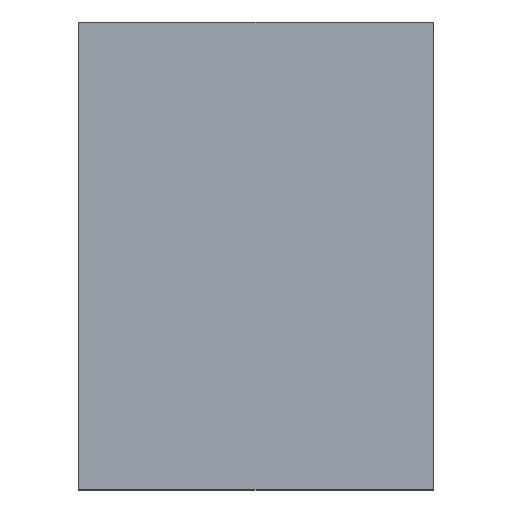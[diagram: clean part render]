
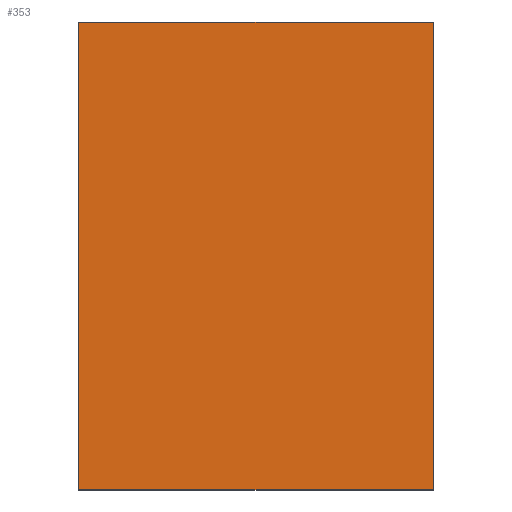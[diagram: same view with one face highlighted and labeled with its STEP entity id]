
A CAD part, top view. The second image highlights one B-rep face of the part: STEP entity #353.
In plain terms, the highlighted planar face has unit normal (0, 0, 1).
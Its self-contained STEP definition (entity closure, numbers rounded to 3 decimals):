
#39 = VERTEX_POINT('',#40);
#40 = CARTESIAN_POINT('',(1.325,2.46,1.08));
#47 = PLANE('',#48);
#48 = AXIS2_PLACEMENT_3D('',#49,#50,#51);
#49 = CARTESIAN_POINT('',(1.325,2.46,0.));
#50 = DIRECTION('',(0.,-1.,0.));
#51 = DIRECTION('',(-1.,0.,0.));
#59 = PLANE('',#60);
#60 = AXIS2_PLACEMENT_3D('',#61,#62,#63);
#61 = CARTESIAN_POINT('',(1.325,-1.04,0.));
#62 = DIRECTION('',(-1.,0.,0.));
#63 = DIRECTION('',(0.,1.,0.));
#71 = EDGE_CURVE('',#39,#72,#74,.T.);
#72 = VERTEX_POINT('',#73);
#73 = CARTESIAN_POINT('',(-1.325,2.46,1.08));
#74 = SURFACE_CURVE('',#75,(#79,#86),.PCURVE_S1.);
#75 = LINE('',#76,#77);
#76 = CARTESIAN_POINT('',(1.325,2.46,1.08));
#77 = VECTOR('',#78,1.);
#78 = DIRECTION('',(-1.,0.,0.));
#79 = PCURVE('',#47,#80);
#80 = DEFINITIONAL_REPRESENTATION('',(#81),#85);
#81 = LINE('',#82,#83);
#82 = CARTESIAN_POINT('',(0.,-1.08));
#83 = VECTOR('',#84,1.);
#84 = DIRECTION('',(1.,0.));
#85 = ( GEOMETRIC_REPRESENTATION_CONTEXT(2) 
PARAMETRIC_REPRESENTATION_CONTEXT() REPRESENTATION_CONTEXT('2D SPACE',''
  ) );
#86 = PCURVE('',#87,#92);
#87 = PLANE('',#88);
#88 = AXIS2_PLACEMENT_3D('',#89,#90,#91);
#89 = CARTESIAN_POINT('',(0.,0.71,1.08));
#90 = DIRECTION('',(0.,0.,1.));
#91 = DIRECTION('',(1.,0.,0.));
#92 = DEFINITIONAL_REPRESENTATION('',(#93),#97);
#93 = LINE('',#94,#95);
#94 = CARTESIAN_POINT('',(1.325,1.75));
#95 = VECTOR('',#96,1.);
#96 = DIRECTION('',(-1.,0.));
#97 = ( GEOMETRIC_REPRESENTATION_CONTEXT(2) 
PARAMETRIC_REPRESENTATION_CONTEXT() REPRESENTATION_CONTEXT('2D SPACE',''
  ) );
#115 = PLANE('',#116);
#116 = AXIS2_PLACEMENT_3D('',#117,#118,#119);
#117 = CARTESIAN_POINT('',(-1.325,2.46,0.));
#118 = DIRECTION('',(1.,0.,-0.));
#119 = DIRECTION('',(0.,-1.,0.));
#157 = EDGE_CURVE('',#72,#158,#160,.T.);
#158 = VERTEX_POINT('',#159);
#159 = CARTESIAN_POINT('',(-1.325,-1.04,1.08));
#160 = SURFACE_CURVE('',#161,(#165,#172),.PCURVE_S1.);
#161 = LINE('',#162,#163);
#162 = CARTESIAN_POINT('',(-1.325,2.46,1.08));
#163 = VECTOR('',#164,1.);
#164 = DIRECTION('',(0.,-1.,0.));
#165 = PCURVE('',#115,#166);
#166 = DEFINITIONAL_REPRESENTATION('',(#167),#171);
#167 = LINE('',#168,#169);
#168 = CARTESIAN_POINT('',(0.,-1.08));
#169 = VECTOR('',#170,1.);
#170 = DIRECTION('',(1.,0.));
#171 = ( GEOMETRIC_REPRESENTATION_CONTEXT(2) 
PARAMETRIC_REPRESENTATION_CONTEXT() REPRESENTATION_CONTEXT('2D SPACE',''
  ) );
#172 = PCURVE('',#87,#173);
#173 = DEFINITIONAL_REPRESENTATION('',(#174),#178);
#174 = LINE('',#175,#176);
#175 = CARTESIAN_POINT('',(-1.325,1.75));
#176 = VECTOR('',#177,1.);
#177 = DIRECTION('',(0.,-1.));
#178 = ( GEOMETRIC_REPRESENTATION_CONTEXT(2) 
PARAMETRIC_REPRESENTATION_CONTEXT() REPRESENTATION_CONTEXT('2D SPACE',''
  ) );
#196 = PLANE('',#197);
#197 = AXIS2_PLACEMENT_3D('',#198,#199,#200);
#198 = CARTESIAN_POINT('',(-1.325,-1.04,0.));
#199 = DIRECTION('',(0.,1.,0.));
#200 = DIRECTION('',(1.,0.,0.));
#233 = EDGE_CURVE('',#158,#234,#236,.T.);
#234 = VERTEX_POINT('',#235);
#235 = CARTESIAN_POINT('',(1.325,-1.04,1.08));
#236 = SURFACE_CURVE('',#237,(#241,#248),.PCURVE_S1.);
#237 = LINE('',#238,#239);
#238 = CARTESIAN_POINT('',(-1.325,-1.04,1.08));
#239 = VECTOR('',#240,1.);
#240 = DIRECTION('',(1.,0.,0.));
#241 = PCURVE('',#196,#242);
#242 = DEFINITIONAL_REPRESENTATION('',(#243),#247);
#243 = LINE('',#244,#245);
#244 = CARTESIAN_POINT('',(0.,-1.08));
#245 = VECTOR('',#246,1.);
#246 = DIRECTION('',(1.,0.));
#247 = ( GEOMETRIC_REPRESENTATION_CONTEXT(2) 
PARAMETRIC_REPRESENTATION_CONTEXT() REPRESENTATION_CONTEXT('2D SPACE',''
  ) );
#248 = PCURVE('',#87,#249);
#249 = DEFINITIONAL_REPRESENTATION('',(#250),#254);
#250 = LINE('',#251,#252);
#251 = CARTESIAN_POINT('',(-1.325,-1.75));
#252 = VECTOR('',#253,1.);
#253 = DIRECTION('',(1.,0.));
#254 = ( GEOMETRIC_REPRESENTATION_CONTEXT(2) 
PARAMETRIC_REPRESENTATION_CONTEXT() REPRESENTATION_CONTEXT('2D SPACE',''
  ) );
#304 = EDGE_CURVE('',#234,#39,#305,.T.);
#305 = SURFACE_CURVE('',#306,(#310,#317),.PCURVE_S1.);
#306 = LINE('',#307,#308);
#307 = CARTESIAN_POINT('',(1.325,-1.04,1.08));
#308 = VECTOR('',#309,1.);
#309 = DIRECTION('',(0.,1.,0.));
#310 = PCURVE('',#59,#311);
#311 = DEFINITIONAL_REPRESENTATION('',(#312),#316);
#312 = LINE('',#313,#314);
#313 = CARTESIAN_POINT('',(0.,-1.08));
#314 = VECTOR('',#315,1.);
#315 = DIRECTION('',(1.,0.));
#316 = ( GEOMETRIC_REPRESENTATION_CONTEXT(2) 
PARAMETRIC_REPRESENTATION_CONTEXT() REPRESENTATION_CONTEXT('2D SPACE',''
  ) );
#317 = PCURVE('',#87,#318);
#318 = DEFINITIONAL_REPRESENTATION('',(#319),#323);
#319 = LINE('',#320,#321);
#320 = CARTESIAN_POINT('',(1.325,-1.75));
#321 = VECTOR('',#322,1.);
#322 = DIRECTION('',(0.,1.));
#323 = ( GEOMETRIC_REPRESENTATION_CONTEXT(2) 
PARAMETRIC_REPRESENTATION_CONTEXT() REPRESENTATION_CONTEXT('2D SPACE',''
  ) );
#353 = ADVANCED_FACE('',(#354),#87,.T.);
#354 = FACE_BOUND('',#355,.T.);
#355 = EDGE_LOOP('',(#356,#357,#358,#359));
#356 = ORIENTED_EDGE('',*,*,#71,.T.);
#357 = ORIENTED_EDGE('',*,*,#157,.T.);
#358 = ORIENTED_EDGE('',*,*,#233,.T.);
#359 = ORIENTED_EDGE('',*,*,#304,.T.);
